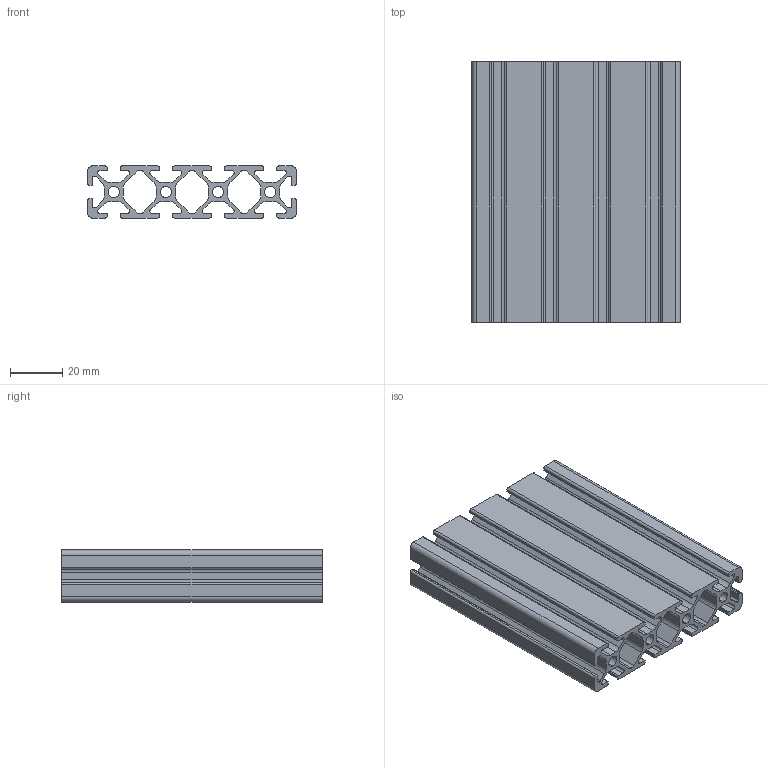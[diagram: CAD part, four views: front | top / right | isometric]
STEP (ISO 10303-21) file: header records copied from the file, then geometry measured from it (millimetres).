
FILE_DESCRIPTION (( 'STEP AP203' ), '1' );
FILE_NAME ('0105P8020.STEP', '2024-02-27T13:30:32', ( 'Windows-Benutzer' ), ( '' ), 'SwSTEP 2.0', 'SolidWorks 2023', '' );
FILE_SCHEMA (( 'CONFIG_CONTROL_DESIGN' ));
Length unit declared in the file: millimetre
Products named in the file (1): 0105P8020
Bounding box: 80 x 100 x 20 mm (x, y, z)
Volume: 56682.9 mm3; surface area: 60824.8 mm2
Topology: 1 solids, 1 shells, 219 faces, 651 edges, 434 vertices
Faces by surface type: cylinder 115, plane 104
Entity records: 7520 total; most frequent: DIRECTION 1321, CARTESIAN_POINT 1305, ORIENTED_EDGE 1302, EDGE_CURVE 651, AXIS2_PLACEMENT_3D 450, VERTEX_POINT 434, VECTOR 421, LINE 421
